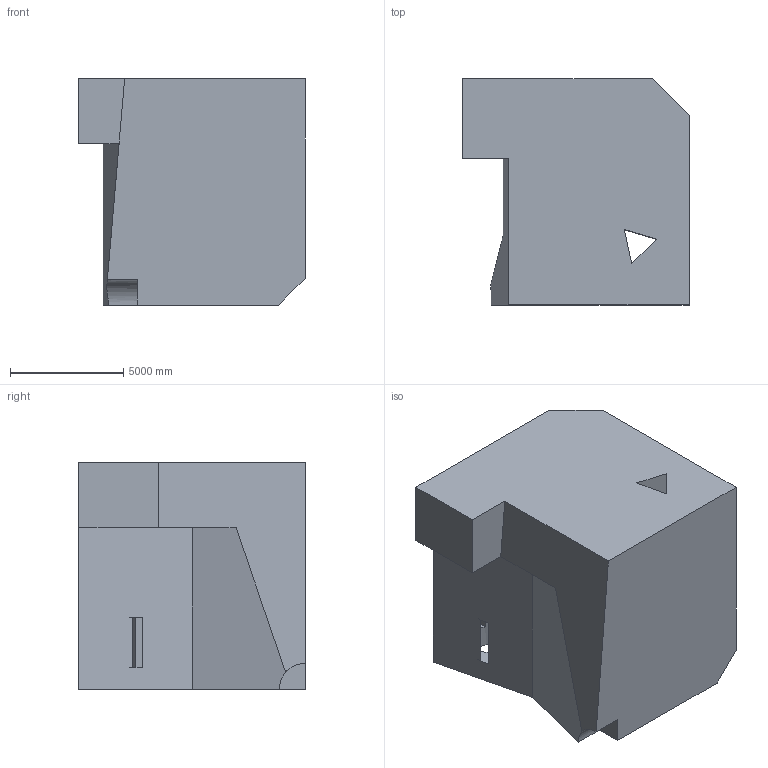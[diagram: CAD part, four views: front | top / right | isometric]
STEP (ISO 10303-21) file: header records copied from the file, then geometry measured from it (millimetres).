
FILE_DESCRIPTION (( 'STEP AP203' ), '1' );
FILE_NAME ('720.STEP', '2022-07-29T12:44:43', ( 'user' ), ( '' ), 'SwSTEP 2.0', 'SolidWorks 2021', '' );
FILE_SCHEMA (( 'CONFIG_CONTROL_DESIGN' ));
Length unit declared in the file: centimetre
Products named in the file (1): 720
Bounding box: 10000 x 10000 x 10000 mm (x, y, z)
Volume: 791988164166.7 mm3; surface area: 613535156.9 mm2
Topology: 1 solids, 1 shells, 27 faces, 78 edges, 52 vertices
Faces by surface type: plane 24, cylinder 3
Entity records: 970 total; most frequent: CARTESIAN_POINT 164, ORIENTED_EDGE 156, DIRECTION 141, EDGE_CURVE 78, VECTOR 67, LINE 67, VERTEX_POINT 52, AXIS2_PLACEMENT_3D 37
